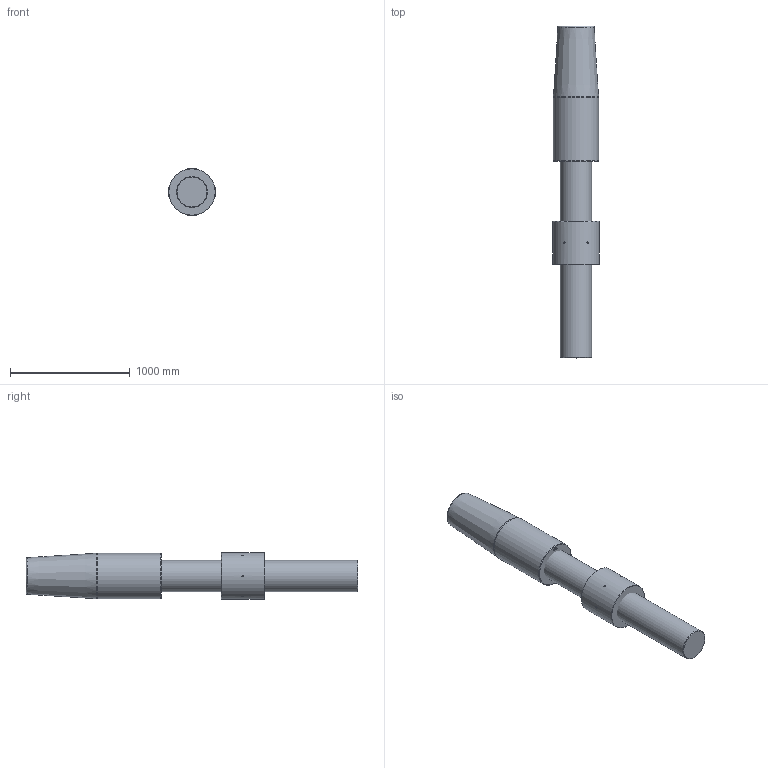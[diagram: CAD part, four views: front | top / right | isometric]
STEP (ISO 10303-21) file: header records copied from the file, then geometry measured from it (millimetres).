
FILE_DESCRIPTION(/* description */ (''),/* implementation_level */ '2;1');
FILE_NAME(/* name */ 'C:\Users\ranca\Desktop\CYM\ARRANGEMENT\CYM132 52 061 0.stp',/* time_stamp */ '2021-04-23T21:13:16+02:00',/* author */ ('ranca'),/* organization */ (''),/* preprocessor_version */ 'ST-DEVELOPER v16.13',/* originating_system */ 'Autodesk Inventor 2018',/* authorisation */ '');
FILE_SCHEMA (('AUTOMOTIVE_DESIGN { 1 0 10303 214 3 1 1 }'));
Length unit declared in the file: millimetre
Products named in the file (4): CYM132-52-061-0; CYM012-52-061-0_ROD; CYC132 52 065 0_CYL SOK_RH; CYM132-41-051-0
Assembly tree (3 placements, depth 2):
  CYM132-52-061-0
    CYM012-52-061-0_ROD
    CYC132 52 065 0_CYL SOK_RH
    CYM132-41-051-0
Bounding box: 390 x 2769 x 390 mm (x, y, z)
Volume: 264591004.6 mm3; surface area: 3874628.6 mm2
Topology: 3 solids, 3 shells, 544 faces, 1489 edges, 990 vertices
Faces by surface type: bspline 269, plane 253, cone 11, cylinder 9, torus 2
Full cylindrical faces by diameter (mm): 15 x6, 260 x1, 380 x1, 390 x1
Entity records: 18658 total; most frequent: CARTESIAN_POINT 6717, ORIENTED_EDGE 2920, DIRECTION 1497, EDGE_CURVE 1460, VERTEX_POINT 984, LINE 889, VECTOR 889, EDGE_LOOP 606
